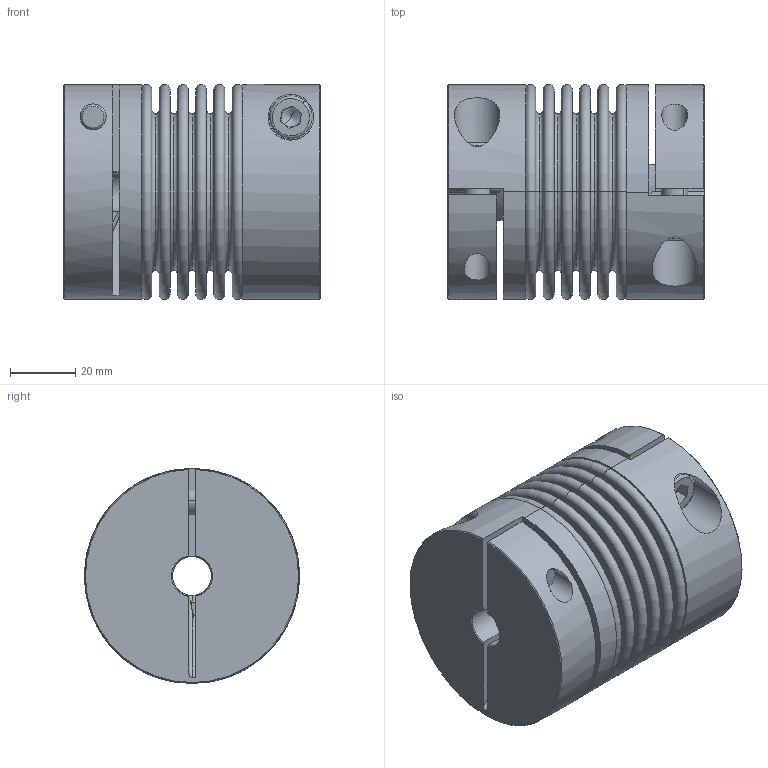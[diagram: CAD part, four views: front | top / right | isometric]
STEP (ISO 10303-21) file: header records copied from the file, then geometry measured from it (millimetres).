
FILE_DESCRIPTION (( 'STEP AP214' ), '1' );
FILE_NAME ('KB4C-60-77.STEP', '2011-01-19T17:12:22', ( '' ), ( 'KAPCAD' ), 'SwSTEP 2.0', 'SolidWorks 2002296', '' );
FILE_SCHEMA (( 'AUTOMOTIVE_DESIGN' ));
Length unit declared in the file: millimetre
Products named in the file (4): KB4C-60-77; BL60_Standard; KN60C_Standard; Socket Head Cap Screw_DIN_DIN 912 M8 x 25 --- 25N
Assembly tree (5 placements, depth 2):
  KB4C-60-77
    Socket Head Cap Screw_DIN_DIN 912 M8 x 25 --- 25N  x2
    KN60C_Standard  x2
    BL60_Standard
Bounding box: 78.7 x 66 x 66 mm (x, y, z)
Volume: 157703.9 mm3; surface area: 84154.3 mm2
Topology: 5 solids, 5 shells, 222 faces, 498 edges, 310 vertices
Faces by surface type: plane 78, torus 78, cylinder 46, cone 20
Entity records: 4841 total; most frequent: CARTESIAN_POINT 955, DIRECTION 931, ORIENTED_EDGE 698, AXIS2_PLACEMENT_3D 428, EDGE_CURVE 349, CIRCLE 258, VERTEX_POINT 219, EDGE_LOOP 196
